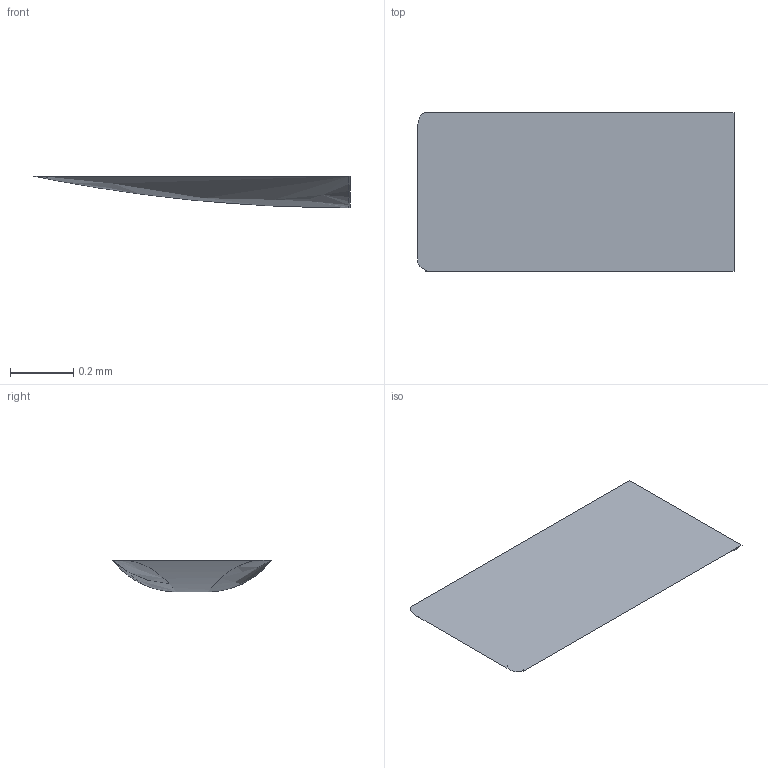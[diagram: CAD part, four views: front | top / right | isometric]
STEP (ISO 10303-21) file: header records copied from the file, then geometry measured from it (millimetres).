
FILE_DESCRIPTION(/* description */ ('STEP AP242 Edition 2','CAx-IF Rec.Pracs.---Representation and Presentation of Product Manufacturing Information (PMI)---4.0---2014-10-13','CAx-IF Rec.Pracs.---3D Tessellated Geometry---0.4---2014-09-14','2;1','CAx-IF Rec.Pracs.---User Defined Attributes---1.5---2016-08-15'),/* implementation_level */ '2;1');
FILE_NAME(/* name */ 'Drone Layout - Surface 73',/* time_stamp */ '2026-10-04T22:23:00Z',/* author */ (''),/* organization */ (''),/* preprocessor_version */ 'ST-DEVELOPER v20',/* originating_system */ 'ONSHAPE BY PTC INC, 1.221',/* authorisation */ ' ');
FILE_SCHEMA (('AP242_MANAGED_MODEL_BASED_3D_ENGINEERING_MIM_LF { 1 0 10303 442 3 1 4 }'));
Length unit declared in the file: metre
Products named in the file (1): USB:1__lpin (1)
Bounding box: 1 x 0.5 x 0.1 mm (x, y, z)
Volume: 0 mm3; surface area: 1.1 mm2
Topology: 1 solids, 1 shells, 8 faces, 18 edges, 12 vertices
Faces by surface type: cylinder 3, plane 3, bspline 2
Entity records: 316 total; most frequent: CARTESIAN_POINT 136, ORIENTED_EDGE 36, DIRECTION 28, EDGE_CURVE 18, VERTEX_POINT 12, LINE 10, VECTOR 10, AXIS2_PLACEMENT_3D 9
